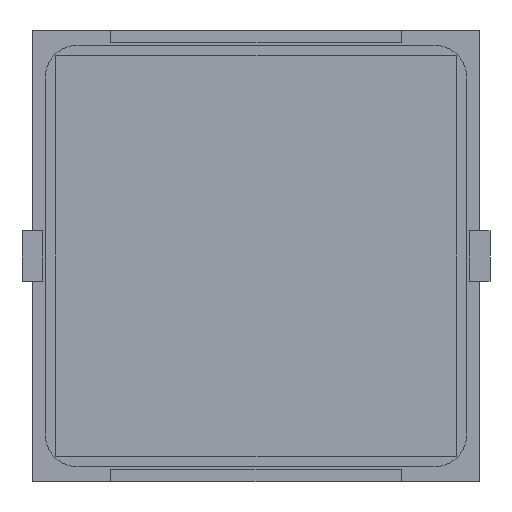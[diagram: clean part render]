
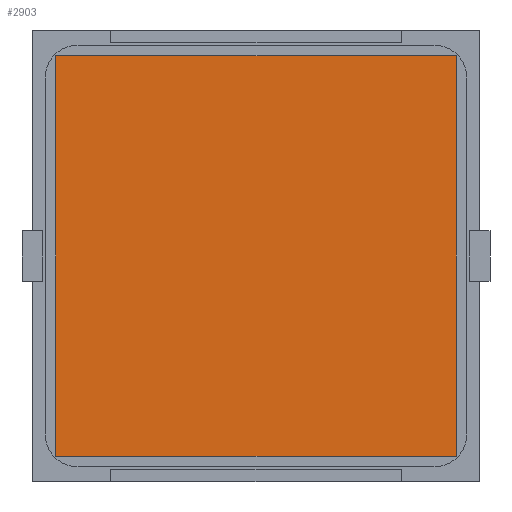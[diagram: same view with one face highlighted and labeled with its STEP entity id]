
A CAD part, front view. The second image highlights one B-rep face of the part: STEP entity #2903.
In plain terms, the highlighted planar face has unit normal (0, -1, 0).
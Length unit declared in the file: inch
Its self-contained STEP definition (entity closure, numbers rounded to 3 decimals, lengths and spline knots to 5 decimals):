
#1891 = VERTEX_POINT ( 'NONE', #10223 ) ;
#1960 = LINE ( 'NONE', #4887, #6960 ) ;
#1967 = EDGE_CURVE ( 'NONE', #1891, #4691, #9284, .T. ) ;
#2021 = DIRECTION ( 'NONE',  ( -1., 0., 0. ) ) ;
#2163 = CARTESIAN_POINT ( 'NONE',  ( -0.7874, -0.005, -0.7874 ) ) ;
#2604 = PLANE ( 'NONE',  #11363 ) ;
#2903 = ADVANCED_FACE ( 'NONE', ( #6355 ), #2604, .T. ) ;
#3074 = CARTESIAN_POINT ( 'NONE',  ( 0.7874, -0.005, -0.7874 ) ) ;
#3539 = VECTOR ( 'NONE', #4334, 39.37008 ) ;
#3779 = DIRECTION ( 'NONE',  ( 1., 0., 0. ) ) ;
#3881 = ORIENTED_EDGE ( 'NONE', *, *, #6545, .T. ) ;
#4110 = EDGE_CURVE ( 'NONE', #7394, #9650, #1960, .T. ) ;
#4334 = DIRECTION ( 'NONE',  ( 0., 0., 1. ) ) ;
#4691 = VERTEX_POINT ( 'NONE', #11145 ) ;
#4887 = CARTESIAN_POINT ( 'NONE',  ( 0.7874, -0.005, 0.7874 ) ) ;
#5267 = ORIENTED_EDGE ( 'NONE', *, *, #4110, .T. ) ;
#6355 = FACE_OUTER_BOUND ( 'NONE', #10722, .T. ) ;
#6545 = EDGE_CURVE ( 'NONE', #4691, #7394, #8330, .T. ) ;
#6625 = CARTESIAN_POINT ( 'NONE',  ( -0.7874, -0.005, 0.7874 ) ) ;
#6960 = VECTOR ( 'NONE', #2021, 39.37008 ) ;
#7319 = VECTOR ( 'NONE', #3779, 39.37008 ) ;
#7322 = CARTESIAN_POINT ( 'NONE',  ( 0.7874, -0.005, 0.7874 ) ) ;
#7394 = VERTEX_POINT ( 'NONE', #7322 ) ;
#7455 = VECTOR ( 'NONE', #10725, 39.37008 ) ;
#8209 = CARTESIAN_POINT ( 'NONE',  ( 0.7874, -0.005, 0.7874 ) ) ;
#8330 = LINE ( 'NONE', #9341, #3539 ) ;
#9284 = LINE ( 'NONE', #3074, #7319 ) ;
#9341 = CARTESIAN_POINT ( 'NONE',  ( 0.7874, -0.005, -0.7874 ) ) ;
#9650 = VERTEX_POINT ( 'NONE', #6625 ) ;
#9711 = LINE ( 'NONE', #2163, #7455 ) ;
#9884 = EDGE_CURVE ( 'NONE', #9650, #1891, #9711, .T. ) ;
#10223 = CARTESIAN_POINT ( 'NONE',  ( -0.7874, -0.005, -0.7874 ) ) ;
#10295 = ORIENTED_EDGE ( 'NONE', *, *, #1967, .T. ) ;
#10722 = EDGE_LOOP ( 'NONE', ( #3881, #5267, #11608, #10295 ) ) ;
#10725 = DIRECTION ( 'NONE',  ( 0., 0., -1. ) ) ;
#11145 = CARTESIAN_POINT ( 'NONE',  ( 0.7874, -0.005, -0.7874 ) ) ;
#11363 = AXIS2_PLACEMENT_3D ( 'NONE', #8209, #12076, #12012 ) ;
#11608 = ORIENTED_EDGE ( 'NONE', *, *, #9884, .T. ) ;
#12012 = DIRECTION ( 'NONE',  ( 0., 0., 1. ) ) ;
#12076 = DIRECTION ( 'NONE',  ( 0., -1., 0. ) ) ;
